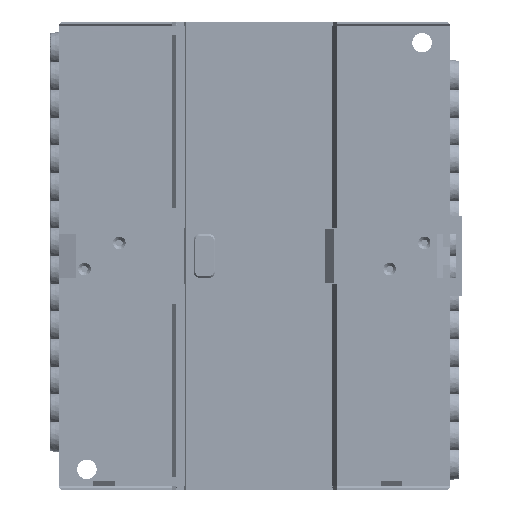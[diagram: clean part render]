
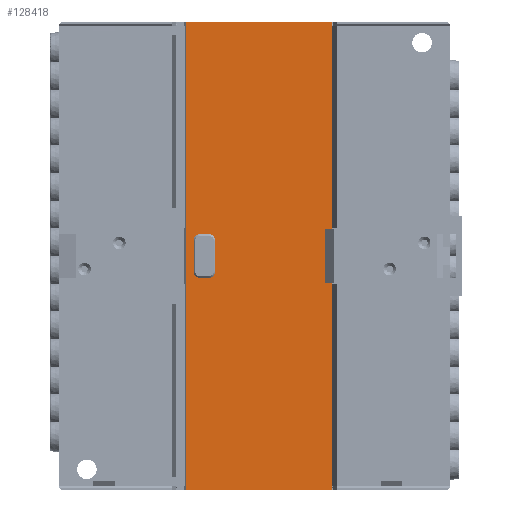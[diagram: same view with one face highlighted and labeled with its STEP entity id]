
A CAD part, left-side view. The second image highlights one B-rep face of the part: STEP entity #128418.
In plain terms, the highlighted planar face has unit normal (-1, 0, 0).
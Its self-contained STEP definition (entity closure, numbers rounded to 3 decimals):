
#34215 = EDGE_CURVE ( 'NONE', #67554, #67568, #130413, .T. ) ;
#34217 = EDGE_CURVE ( 'NONE', #67572, #67492, #130420, .T. ) ;
#34219 = EDGE_CURVE ( 'NONE', #67578, #67580, #130424, .T. ) ;
#34220 = EDGE_CURVE ( 'NONE', #67492, #67568, #130431, .T. ) ;
#34221 = EDGE_CURVE ( 'NONE', #67574, #67582, #130427, .T. ) ;
#34222 = EDGE_CURVE ( 'NONE', #67572, #67578, #130435, .T. ) ;
#34223 = EDGE_CURVE ( 'NONE', #67584, #67576, #130440, .T. ) ;
#34224 = EDGE_CURVE ( 'NONE', #67580, #67554, #130438, .T. ) ;
#34225 = EDGE_CURVE ( 'NONE', #67570, #67401, #130445, .T. ) ;
#34226 = EDGE_CURVE ( 'NONE', #67576, #67574, #130443, .T. ) ;
#34227 = EDGE_CURVE ( 'NONE', #67588, #67586, #130449, .T. ) ;
#34228 = EDGE_CURVE ( 'NONE', #67401, #67584, #130451, .T. ) ;
#34230 = EDGE_CURVE ( 'NONE', #67586, #67570, #130456, .T. ) ;
#34232 = EDGE_CURVE ( 'NONE', #67582, #67588, #130467, .T. ) ;
#40820 = FACE_OUTER_BOUND ( 'NONE', #67739, .T. ) ;
#40831 = FACE_BOUND ( 'NONE', #67755, .T. ) ;
#63690 = ORIENTED_EDGE ( 'NONE', *, *, #34215, .T. ) ;
#63691 = ORIENTED_EDGE ( 'NONE', *, *, #34220, .F. ) ;
#63693 = ORIENTED_EDGE ( 'NONE', *, *, #34217, .F. ) ;
#63694 = ORIENTED_EDGE ( 'NONE', *, *, #34222, .T. ) ;
#63696 = ORIENTED_EDGE ( 'NONE', *, *, #34219, .T. ) ;
#63697 = ORIENTED_EDGE ( 'NONE', *, *, #34224, .T. ) ;
#63698 = ORIENTED_EDGE ( 'NONE', *, *, #34221, .F. ) ;
#63700 = ORIENTED_EDGE ( 'NONE', *, *, #34226, .F. ) ;
#63701 = ORIENTED_EDGE ( 'NONE', *, *, #34223, .F. ) ;
#63703 = ORIENTED_EDGE ( 'NONE', *, *, #34228, .F. ) ;
#63704 = ORIENTED_EDGE ( 'NONE', *, *, #34225, .F. ) ;
#63706 = ORIENTED_EDGE ( 'NONE', *, *, #34230, .F. ) ;
#63707 = ORIENTED_EDGE ( 'NONE', *, *, #34227, .F. ) ;
#63709 = ORIENTED_EDGE ( 'NONE', *, *, #34232, .F. ) ;
#67401 = VERTEX_POINT ( 'NONE', #113239 ) ;
#67492 = VERTEX_POINT ( 'NONE', #113285 ) ;
#67554 = VERTEX_POINT ( 'NONE', #113316 ) ;
#67568 = VERTEX_POINT ( 'NONE', #113323 ) ;
#67570 = VERTEX_POINT ( 'NONE', #113324 ) ;
#67572 = VERTEX_POINT ( 'NONE', #113325 ) ;
#67574 = VERTEX_POINT ( 'NONE', #113326 ) ;
#67576 = VERTEX_POINT ( 'NONE', #113327 ) ;
#67578 = VERTEX_POINT ( 'NONE', #113328 ) ;
#67580 = VERTEX_POINT ( 'NONE', #113329 ) ;
#67582 = VERTEX_POINT ( 'NONE', #113330 ) ;
#67584 = VERTEX_POINT ( 'NONE', #113331 ) ;
#67586 = VERTEX_POINT ( 'NONE', #113332 ) ;
#67588 = VERTEX_POINT ( 'NONE', #113333 ) ;
#67739 = EDGE_LOOP ( 'NONE', ( #63690, #63691, #63693, #63694, #63696, #63697 ) ) ;
#67755 = EDGE_LOOP ( 'NONE', ( #63698, #63700, #63701, #63703, #63704, #63706, #63707, #63709 ) ) ;
#69461 = CARTESIAN_POINT ( 'NONE',  ( 4.5, 15.7, -53.75 ) ) ;
#69470 = PLANE ( 'NONE',  #80729 ) ;
#69480 = DIRECTION ( 'NONE',  ( 1., 0., 0. ) ) ;
#69482 = DIRECTION ( 'NONE',  ( 0., 1., 0. ) ) ;
#80729 = AXIS2_PLACEMENT_3D ( 'NONE', #69461, #69480, #69482 ) ;
#81361 = AXIS2_PLACEMENT_3D ( 'NONE', #141903, #141905, #141907 ) ;
#81363 = AXIS2_PLACEMENT_3D ( 'NONE', #141914, #141916, #141918 ) ;
#81365 = AXIS2_PLACEMENT_3D ( 'NONE', #141924, #141926, #141928 ) ;
#81366 = AXIS2_PLACEMENT_3D ( 'NONE', #141937, #141939, #141941 ) ;
#113239 = CARTESIAN_POINT ( 'NONE',  ( 4.5, 10.5, 5. ) ) ;
#113285 = CARTESIAN_POINT ( 'NONE',  ( 4.5, 15.7, -53.75 ) ) ;
#113316 = CARTESIAN_POINT ( 'NONE',  ( 4.5, -17.7, 53.75 ) ) ;
#113323 = CARTESIAN_POINT ( 'NONE',  ( 4.5, 15.7, 53.75 ) ) ;
#113324 = CARTESIAN_POINT ( 'NONE',  ( 4.5, 9., 3.5 ) ) ;
#113325 = CARTESIAN_POINT ( 'NONE',  ( 4.5, -17.7, -53.75 ) ) ;
#113326 = CARTESIAN_POINT ( 'NONE',  ( 4.5, 14., -3.5 ) ) ;
#113327 = CARTESIAN_POINT ( 'NONE',  ( 4.5, 14., 3.5 ) ) ;
#113328 = CARTESIAN_POINT ( 'NONE',  ( 4.5, -17.7, -52.75 ) ) ;
#113329 = CARTESIAN_POINT ( 'NONE',  ( 4.5, -17.7, 52.75 ) ) ;
#113330 = CARTESIAN_POINT ( 'NONE',  ( 4.5, 12.5, -5. ) ) ;
#113331 = CARTESIAN_POINT ( 'NONE',  ( 4.5, 12.5, 5. ) ) ;
#113332 = CARTESIAN_POINT ( 'NONE',  ( 4.5, 9., -3.5 ) ) ;
#113333 = CARTESIAN_POINT ( 'NONE',  ( 4.5, 10.5, -5. ) ) ;
#128418 = ADVANCED_FACE ( 'NONE', ( #40820, #40831 ), #69470, .F. ) ;
#130413 = LINE ( 'NONE', #141874, #130419 ) ;
#130419 = VECTOR ( 'NONE', #141877, 1000. ) ;
#130420 = LINE ( 'NONE', #141882, #130426 ) ;
#130424 = LINE ( 'NONE', #141876, #130433 ) ;
#130426 = VECTOR ( 'NONE', #141885, 1000. ) ;
#130427 = CIRCLE ( 'NONE', #81361, 1.5 ) ;
#130431 = LINE ( 'NONE', #141893, #130436 ) ;
#130433 = VECTOR ( 'NONE', #141890, 1000. ) ;
#130435 = LINE ( 'NONE', #141902, #130442 ) ;
#130436 = VECTOR ( 'NONE', #141897, 1000. ) ;
#130438 = LINE ( 'NONE', #141913, #130447 ) ;
#130440 = CIRCLE ( 'NONE', #81363, 1.5 ) ;
#130442 = VECTOR ( 'NONE', #141895, 1000. ) ;
#130443 = LINE ( 'NONE', #141923, #130452 ) ;
#130445 = CIRCLE ( 'NONE', #81365, 1.5 ) ;
#130447 = VECTOR ( 'NONE', #141898, 1000. ) ;
#130449 = CIRCLE ( 'NONE', #81366, 1.5 ) ;
#130451 = LINE ( 'NONE', #141936, #130458 ) ;
#130452 = VECTOR ( 'NONE', #141911, 1000. ) ;
#130456 = LINE ( 'NONE', #141931, #130465 ) ;
#130458 = VECTOR ( 'NONE', #141930, 1000. ) ;
#130465 = VECTOR ( 'NONE', #141949, 1000. ) ;
#130467 = LINE ( 'NONE', #141956, #130472 ) ;
#130472 = VECTOR ( 'NONE', #141960, 1000. ) ;
#141874 = CARTESIAN_POINT ( 'NONE',  ( 4.5, 15.7, 53.75 ) ) ;
#141876 = CARTESIAN_POINT ( 'NONE',  ( 4.5, -17.7, -53.75 ) ) ;
#141877 = DIRECTION ( 'NONE',  ( 0., 1., 0. ) ) ;
#141882 = CARTESIAN_POINT ( 'NONE',  ( 4.5, 15.7, -53.75 ) ) ;
#141885 = DIRECTION ( 'NONE',  ( 0., 1., 0. ) ) ;
#141890 = DIRECTION ( 'NONE',  ( 0., 0., 1. ) ) ;
#141893 = CARTESIAN_POINT ( 'NONE',  ( 4.5, 15.7, -53.75 ) ) ;
#141895 = DIRECTION ( 'NONE',  ( 0., 0., 1. ) ) ;
#141897 = DIRECTION ( 'NONE',  ( 0., 0., 1. ) ) ;
#141898 = DIRECTION ( 'NONE',  ( 0., 0., 1. ) ) ;
#141902 = CARTESIAN_POINT ( 'NONE',  ( 4.5, -17.7, -53.75 ) ) ;
#141903 = CARTESIAN_POINT ( 'NONE',  ( 4.5, 12.5, -3.5 ) ) ;
#141905 = DIRECTION ( 'NONE',  ( -1., 0., 0. ) ) ;
#141907 = DIRECTION ( 'NONE',  ( 0., -1., 0. ) ) ;
#141911 = DIRECTION ( 'NONE',  ( 0., 0., -1. ) ) ;
#141913 = CARTESIAN_POINT ( 'NONE',  ( 4.5, -17.7, -53.75 ) ) ;
#141914 = CARTESIAN_POINT ( 'NONE',  ( 4.5, 12.5, 3.5 ) ) ;
#141916 = DIRECTION ( 'NONE',  ( -1., 0., 0. ) ) ;
#141918 = DIRECTION ( 'NONE',  ( 0., -1., 0. ) ) ;
#141923 = CARTESIAN_POINT ( 'NONE',  ( 4.5, 14., -3.5 ) ) ;
#141924 = CARTESIAN_POINT ( 'NONE',  ( 4.5, 10.5, 3.5 ) ) ;
#141926 = DIRECTION ( 'NONE',  ( -1., 0., 0. ) ) ;
#141928 = DIRECTION ( 'NONE',  ( 0., -1., 0. ) ) ;
#141930 = DIRECTION ( 'NONE',  ( 0., 1., 0. ) ) ;
#141931 = CARTESIAN_POINT ( 'NONE',  ( 4.5, 9., -3.5 ) ) ;
#141936 = CARTESIAN_POINT ( 'NONE',  ( 4.5, 12.5, 5. ) ) ;
#141937 = CARTESIAN_POINT ( 'NONE',  ( 4.5, 10.5, -3.5 ) ) ;
#141939 = DIRECTION ( 'NONE',  ( -1., 0., 0. ) ) ;
#141941 = DIRECTION ( 'NONE',  ( 0., -1., 0. ) ) ;
#141949 = DIRECTION ( 'NONE',  ( 0., 0., 1. ) ) ;
#141956 = CARTESIAN_POINT ( 'NONE',  ( 4.5, 12.5, -5. ) ) ;
#141960 = DIRECTION ( 'NONE',  ( 0., -1., 0. ) ) ;
